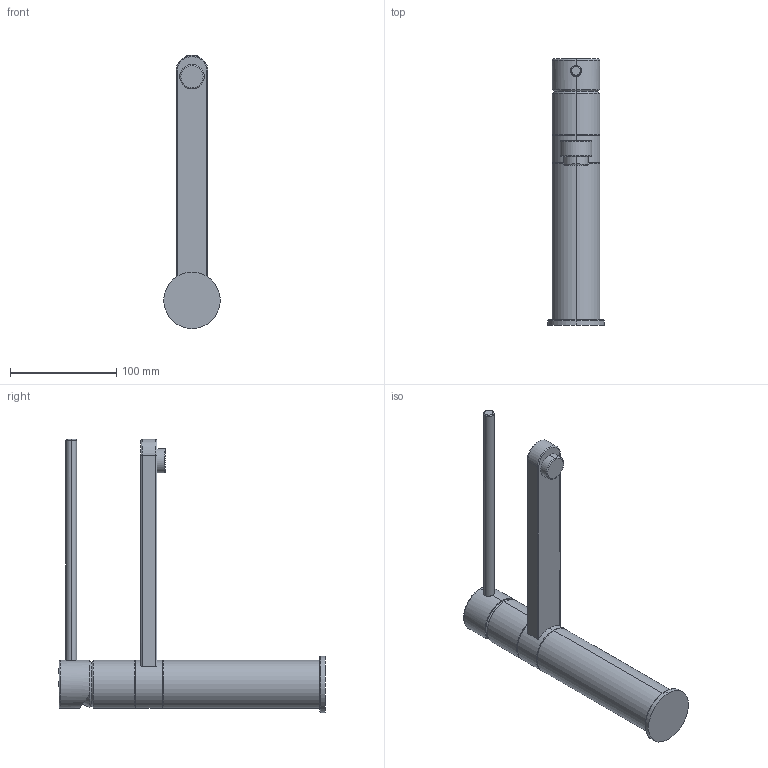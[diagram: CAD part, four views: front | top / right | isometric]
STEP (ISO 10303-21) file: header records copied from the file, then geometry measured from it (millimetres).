
FILE_DESCRIPTION (( 'STEP AP214' ), '1' );
FILE_NAME ('MIXER-38119LD.STEP', '2020-09-22T18:45:46', ( '' ), ( '' ), 'SwSTEP 2.0', 'SolidWorks 2020', '' );
FILE_SCHEMA (( 'AUTOMOTIVE_DESIGN' ));
Length unit declared in the file: millimetre
Products named in the file (1): MIXER-38119LD
Bounding box: 53 x 250.2 x 256.5 mm (x, y, z)
Volume: 511750.4 mm3; surface area: 88263 mm2
Topology: 17 solids, 17 shells, 684 faces, 1936 edges, 1283 vertices
Faces by surface type: cylinder 563, plane 93, torus 19, bspline 9
Entity records: 31228 total; most frequent: CARTESIAN_POINT 4719, DIRECTION 4410, ORIENTED_EDGE 3864, EDGE_CURVE 1932, AXIS2_PLACEMENT_3D 1836, VERTEX_POINT 1283, CIRCLE 1160, LINE 738
